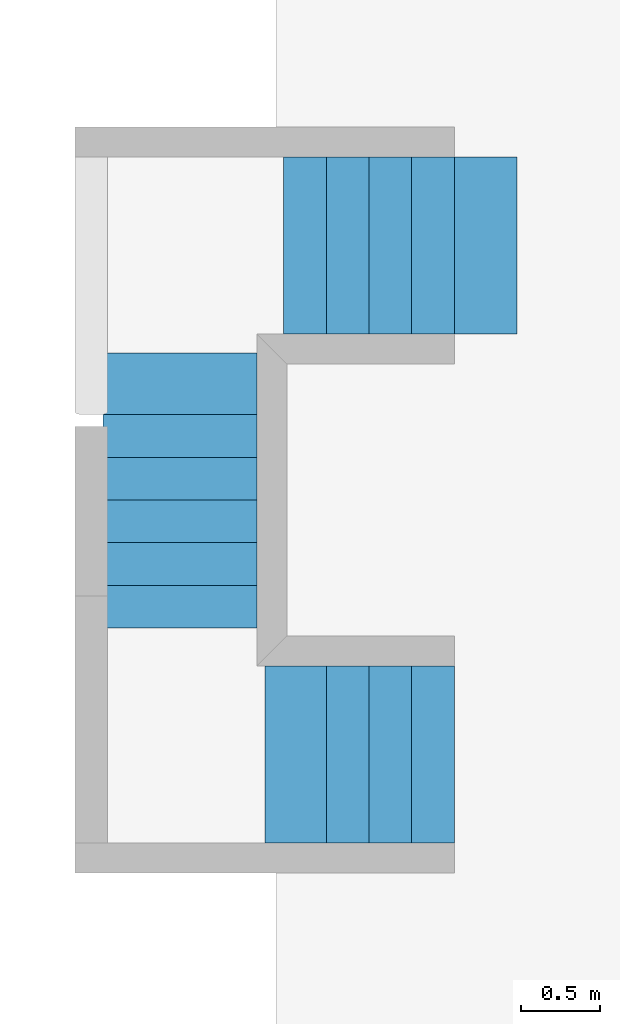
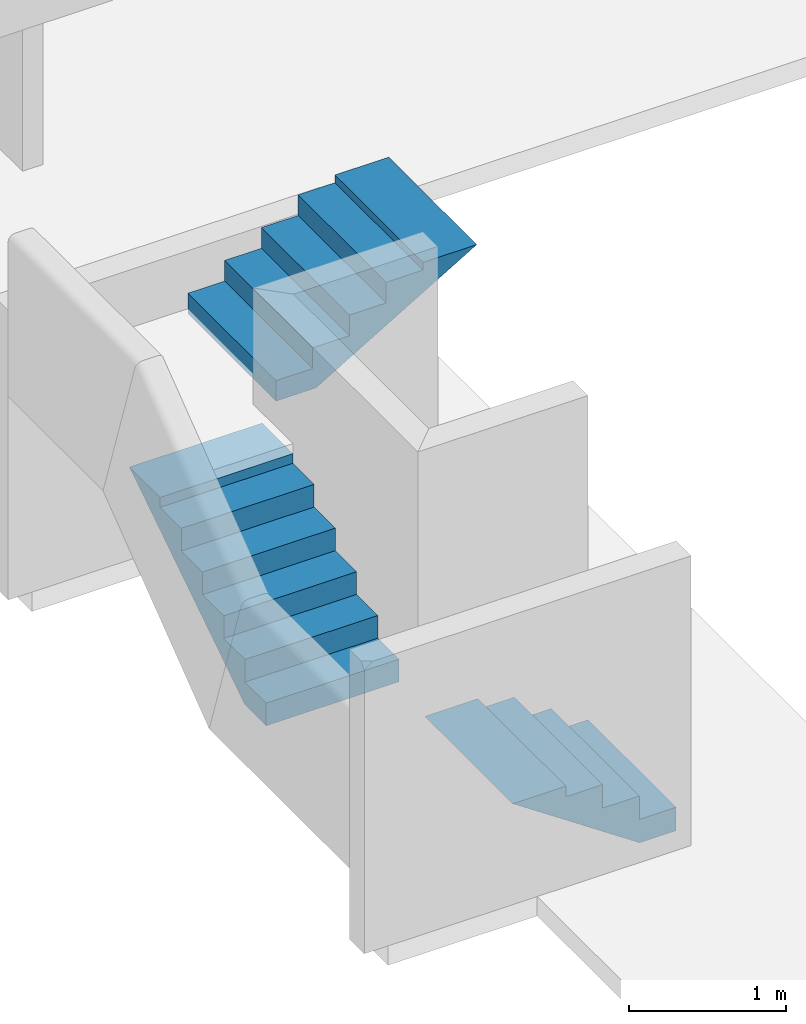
# One storey, part 2 of 2: 3 members, 3 elements without a shape of their own.
"""IFC4 building model written with IfcOpenShell, lengths in millimetres."""

from ifc_helpers import new_model, entity, si_unit, converted_unit, derived_unit, direction, frame, origin_with_axes, place, context, subcontext, project, spatial, polygons, material, type_object, element, aggregate, save


model = new_model("IFC4")

# Units and contexts
model_context = context("Model", 3, precision=0.01, world=origin_with_axes(), true_north=direction((0.0, 1.0)))
body_context = subcontext(model_context, "Body", "Model", "MODEL_VIEW")
ifc_project = project(units=[si_unit("LENGTHUNIT", "METRE", prefix="MILLI"), si_unit("AREAUNIT", "SQUARE_METRE"), si_unit("VOLUMEUNIT", "CUBIC_METRE"), converted_unit("PLANEANGLEUNIT", "DEGREE", entity("IfcPlaneAngleMeasure", 0.0174532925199), si_unit("PLANEANGLEUNIT", "RADIAN"), dimensions=[0, 0, 0, 0, 0, 0, 0]), converted_unit("TIMEUNIT", "Year", entity("IfcTimeMeasure", 31556926.0), si_unit("TIMEUNIT", "SECOND"), dimensions=[0, 0, 1, 0, 0, 0, 0]), si_unit("MASSUNIT", "GRAM", prefix="KILO"), si_unit("THERMODYNAMICTEMPERATUREUNIT", "DEGREE_CELSIUS"), si_unit("LUMINOUSINTENSITYUNIT", "LUMEN"), si_unit("ENERGYUNIT", "JOULE", prefix="MEGA"), derived_unit("THERMALCONDUCTANCEUNIT", [(si_unit("POWERUNIT", "WATT"), 1), (si_unit("LENGTHUNIT", "METRE"), -1), (si_unit("THERMODYNAMICTEMPERATUREUNIT", "KELVIN"), -1)]), derived_unit("SPECIFICHEATCAPACITYUNIT", [(si_unit("ENERGYUNIT", "JOULE"), 1), (si_unit("MASSUNIT", "GRAM", prefix="KILO"), -1), (si_unit("THERMODYNAMICTEMPERATUREUNIT", "KELVIN"), -1)]), derived_unit("MASSDENSITYUNIT", [(si_unit("MASSUNIT", "GRAM", prefix="KILO"), 1), (si_unit("VOLUMEUNIT", "CUBIC_METRE"), -1)])], contexts=[model_context])

# Site, building, storey
site_placement = place(None, origin_with_axes())
site = spatial("IfcSite", under=ifc_project, at=site_placement, Name="Local", CompositionType="ELEMENT")
building_placement = place(site_placement, origin_with_axes())
building = spatial("IfcBuilding", under=site, at=building_placement, Name="Construção", CompositionType="ELEMENT")
storey_placement = place(building_placement, frame((0.0, 0.0, -2650.0), z_axis=(0.0, 0.0, 1.0), x_axis=(1.0, 0.0, 0.0)))
storey = spatial("IfcBuildingStorey", under=building, at=storey_placement, Name="Pavimento Terreo", CompositionType="ELEMENT", Elevation=-2650.0)

# Stair, member
stair_type = type_object("IfcStairType", Name="Tipo de Escada", PredefinedType="NOTDEFINED")
stair_1_placement = place(storey_placement, frame((6210.0, 14130.0, 1710.57075871), z_axis=(0.0, 0.0, 1.0), x_axis=(-1.0, 0.0, 0.0)))
stair_1 = element("IfcStair", 1, at=stair_1_placement, inside=storey, type_object=stair_type, Name="ESCADA-005", PredefinedType="NOTDEFINED")
ifc_material = material(Name="Concreto - Estrutural")
member_type = type_object("IfcMemberType", Name="IfcMember", PredefinedType="NOTDEFINED")
member_1_placement = place(stair_1_placement, origin_with_axes())
member_1 = element("IfcMember", 2, at=member_1_placement, type_object=member_type, material=ifc_material, Name="Lance - 005", PredefinedType="NOTDEFINED", context=body_context, shape_type="Tessellation", body=[
    polygons([(-1170.0, 0.0, 518.78088097), (-1170.0, -1120.0, 518.78088097), (-1260.0, -1120.0, 572.098333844), (-1260.0, 0.0, 572.098333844), (-1080.0, 0.0, 465.463428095), (-1080.0, -1120.0, 465.463428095), (-1475.49625339, -1120.0, 699.761793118), (-1350.0, -1120.0, 625.415786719), (-990.0, -1120.0, 412.145975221), (-900.0, -1120.0, 358.828522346), (-810.0, -1120.0, 305.511069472), (-720.0, -1120.0, 252.193616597), (-630.0, -1120.0, 198.876163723), (-540.0, -1120.0, 145.558710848), (-450.0, -1120.0, 92.2412579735), (-360.0, -1120.0, 38.923805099), (-294.296515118, -1120.0, 0.0), (0.0, -1120.0, 0.0), (0.0, -1120.0, 159.952358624), (-270.0, -1120.0, 159.952358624), (-270.0, -1120.0, 319.904717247), (-540.0, -1120.0, 319.904717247), (-540.0, -1120.0, 479.857075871), (-810.0, -1120.0, 479.857075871), (-810.0, -1120.0, 639.809434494), (-1080.0, -1120.0, 639.809434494), (-1080.0, -1120.0, 699.761793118), (-1475.49625339, 0.0, 699.761793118), (-1350.0, 0.0, 625.415786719), (-1080.0, 0.0, 699.761793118), (-1080.0, 0.0, 639.809434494), (-810.0, 0.0, 639.809434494), (-810.0, 0.0, 479.857075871), (-540.0, 0.0, 479.857075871), (-540.0, 0.0, 319.904717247), (-270.0, 0.0, 319.904717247), (-270.0, 0.0, 159.952358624), (0.0, 0.0, 159.952358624), (0.0, 0.0, 0.0), (-294.296515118, 0.0, 0.0), (-360.0, 0.0, 38.923805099), (-450.0, 0.0, 92.2412579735), (-540.0, 0.0, 145.558710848), (-630.0, 0.0, 198.876163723), (-720.0, 0.0, 252.193616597), (-810.0, 0.0, 305.511069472), (-900.0, 0.0, 358.828522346), (-990.0, 0.0, 412.145975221)], [[[1, 2, 3, 4]], [[5, 6, 2, 1]], [[7, 8, 3, 2, 6, 9, 10, 11, 12, 13, 14, 15, 16, 17, 18, 19, 20, 21, 22, 23, 24, 25, 26, 27]], [[7, 28, 29, 4, 3, 8]], [[28, 30, 31, 32, 33, 34, 35, 36, 37, 38, 39, 40, 41, 42, 43, 44, 45, 46, 47, 48, 5, 1, 4, 29]], [[48, 9, 6, 5]], [[47, 10, 9, 48]], [[46, 11, 10, 47]], [[45, 12, 11, 46]], [[44, 13, 12, 45]], [[43, 14, 13, 44]], [[42, 15, 14, 43]], [[41, 16, 15, 42]], [[40, 17, 16, 41]], [[40, 39, 18, 17]], [[38, 19, 18, 39]], [[37, 20, 19, 38]], [[20, 37, 36, 21]], [[35, 22, 21, 36]], [[22, 35, 34, 23]], [[33, 24, 23, 34]], [[24, 33, 32, 25]], [[31, 26, 25, 32]], [[27, 26, 31, 30]], [[7, 27, 30, 28]]], closed=True),
])
aggregate(stair_1, [member_1])

stair_2_placement = place(storey_placement, frame((6040.0, 12000.0, 719.429241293), z_axis=(0.0, 0.0, 1.0), x_axis=(1.0, 0.0, 0.0)))
stair_2 = element("IfcStair", 3, at=stair_2_placement, inside=storey, type_object=stair_type, Name="ESCADA-003", PredefinedType="NOTDEFINED")
member_2_placement = place(stair_2_placement, origin_with_axes())
member_2 = element("IfcMember", 4, at=member_2_placement, type_object=member_type, material=ifc_material, Name="Lance - 007", PredefinedType="NOTDEFINED", context=body_context, shape_type="Tessellation", body=[
    polygons([(-975.0, 1620.0, 878.094865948), (-975.0, 1350.0, 878.094865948), (0.0, 1350.0, 878.094865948), (0.0, 1620.0, 878.094865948), (-975.0, 1620.0, 953.713839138), (-975.0, 2011.3622456, 953.713839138), (-975.0, 1620.0, 699.15592907), (-975.0, 1530.0, 640.616271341), (-975.0, 1440.0, 582.076613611), (-975.0, 1350.0, 523.536955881), (-975.0, 1260.0, 464.997298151), (-975.0, 1170.0, 406.457640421), (-975.0, 1080.0, 347.917982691), (-975.0, 990.0, 289.378324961), (-975.0, 900.0, 230.838667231), (-975.0, 810.0, 172.299009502), (-975.0, 720.0, 113.759351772), (-975.0, 630.0, 55.2196940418), (-975.0, 545.104176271, 0.0), (-975.0, 270.0, 0.0), (-975.0, 270.0, 175.61897319), (-975.0, 540.0, 175.61897319), (-975.0, 540.0, 351.237946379), (-975.0, 810.0, 351.237946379), (-975.0, 810.0, 526.856919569), (-975.0, 1080.0, 526.856919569), (-975.0, 1080.0, 702.475892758), (-975.0, 1350.0, 702.475892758), (0.0, 1350.0, 702.475892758), (0.0, 1620.0, 699.15592907), (0.0, 2011.3622456, 953.713839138), (0.0, 1620.0, 953.713839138), (0.0, 1080.0, 702.475892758), (0.0, 1080.0, 526.856919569), (0.0, 810.0, 526.856919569), (0.0, 810.0, 351.237946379), (0.0, 540.0, 351.237946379), (0.0, 540.0, 175.61897319), (0.0, 270.0, 175.61897319), (0.0, 270.0, 0.0), (0.0, 545.104176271, 0.0), (0.0, 630.0, 55.2196940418), (0.0, 720.0, 113.759351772), (0.0, 810.0, 172.299009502), (0.0, 900.0, 230.838667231), (0.0, 990.0, 289.378324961), (0.0, 1080.0, 347.917982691), (0.0, 1170.0, 406.457640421), (0.0, 1260.0, 464.997298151), (0.0, 1350.0, 523.536955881), (0.0, 1440.0, 582.076613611), (0.0, 1530.0, 640.616271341)], [[[1, 2, 3, 4]], [[1, 5, 6, 7, 8, 9, 10, 11, 12, 13, 14, 15, 16, 17, 18, 19, 20, 21, 22, 23, 24, 25, 26, 27, 28, 2]], [[2, 28, 29, 3]], [[30, 31, 32, 4, 3, 29, 33, 34, 35, 36, 37, 38, 39, 40, 41, 42, 43, 44, 45, 46, 47, 48, 49, 50, 51, 52]], [[4, 32, 5, 1]], [[5, 32, 31, 6]], [[7, 6, 31, 30, 52, 8]], [[9, 8, 52, 51]], [[10, 9, 51, 50]], [[11, 10, 50, 49]], [[12, 11, 49, 48]], [[13, 12, 48, 47]], [[14, 13, 47, 46]], [[15, 14, 46, 45]], [[16, 15, 45, 44]], [[17, 16, 44, 43]], [[18, 17, 43, 42]], [[19, 18, 42, 41]], [[20, 19, 41, 40]], [[21, 20, 40, 39]], [[39, 38, 22, 21]], [[23, 22, 38, 37]], [[37, 36, 24, 23]], [[25, 24, 36, 35]], [[35, 34, 26, 25]], [[27, 26, 34, 33]], [[33, 29, 28, 27]]], closed=True),
])
aggregate(stair_2, [member_2])

stair_3_placement = place(storey_placement, frame((7290.0, 10910.0, -50.0), z_axis=(0.0, 0.0, 1.0), x_axis=(1.0, 0.0, 0.0)))
stair_3 = element("IfcStair", 5, at=stair_3_placement, inside=storey, type_object=stair_type, Name="ESCADA-004", PredefinedType="NOTDEFINED")
member_3_placement = place(stair_3_placement, origin_with_axes())
member_3 = element("IfcMember", 6, at=member_3_placement, type_object=member_type, material=ifc_material, Name="Lance - 005", PredefinedType="NOTDEFINED", context=body_context, shape_type="Tessellation", body=[
    polygons([(-810.0, 1120.0, 547.5), (-810.0, 0.0, 547.5), (-540.0, 0.0, 547.5), (-540.0, 1120.0, 547.5), (-810.0, 1120.0, 630.0), (-810.0, 0.0, 630.0), (-810.0, 0.0, 366.448331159), (-720.0, 0.0, 305.614997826), (-630.0, 0.0, 244.781664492), (-540.0, 0.0, 183.948331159), (-450.0, 0.0, 123.114997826), (-360.0, 0.0, 62.2816644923), (-270.0, 0.0, 1.44833115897), (-267.857263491, 0.0, 0.0), (0.0, 0.0, 0.0), (0.0, 0.0, 182.5), (-270.0, 0.0, 182.5), (-270.0, 0.0, 365.0), (-540.0, 0.0, 365.0), (-1199.91205801, 0.0, 630.0), (-540.0, 1120.0, 365.0), (-270.0, 1120.0, 365.0), (-270.0, 1120.0, 182.5), (0.0, 1120.0, 182.5), (0.0, 1120.0, 0.0), (-267.857263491, 1120.0, 0.0), (-270.0, 1120.0, 1.44833115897), (-360.0, 1120.0, 62.2816644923), (-450.0, 1120.0, 123.114997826), (-540.0, 1120.0, 183.948331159), (-630.0, 1120.0, 244.781664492), (-720.0, 1120.0, 305.614997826), (-810.0, 1120.0, 366.448331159), (-1199.91205801, 1120.0, 630.0)], [[[1, 2, 3, 4]], [[2, 1, 5, 6]], [[7, 8, 9, 10, 11, 12, 13, 14, 15, 16, 17, 18, 19, 3, 2, 6, 20]], [[4, 3, 19, 21]], [[1, 4, 21, 22, 23, 24, 25, 26, 27, 28, 29, 30, 31, 32, 33, 34, 5]], [[5, 34, 20, 6]], [[33, 32, 8, 7, 20, 34]], [[8, 32, 31, 9]], [[9, 31, 30, 10]], [[10, 30, 29, 11]], [[11, 29, 28, 12]], [[12, 28, 27, 13]], [[13, 27, 26, 14]], [[26, 25, 15, 14]], [[15, 25, 24, 16]], [[16, 24, 23, 17]], [[22, 18, 17, 23]], [[18, 22, 21, 19]]], closed=True),
])
aggregate(stair_3, [member_3])

save(model, "model.ifc")
